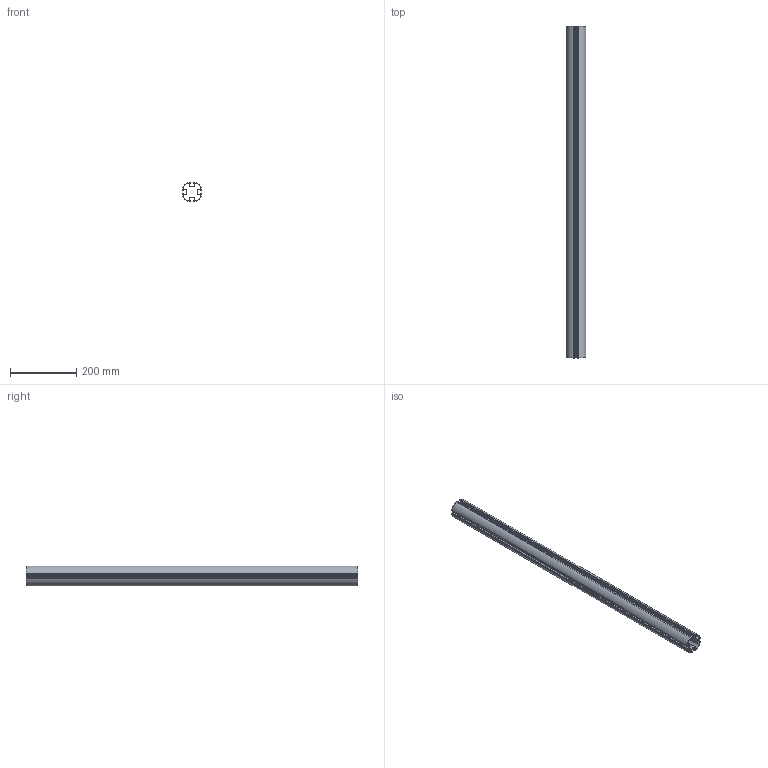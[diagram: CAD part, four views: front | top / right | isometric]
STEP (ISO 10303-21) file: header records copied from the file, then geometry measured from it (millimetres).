
FILE_DESCRIPTION (( 'STEP AP203' ), '1' );
FILE_NAME ('TUA-60-4R.STEP', '2009-04-22T09:33:25', ( 'faber' ), ( '' ), 'SwSTEP 2.0', 'SolidWorks 2008', '' );
FILE_SCHEMA (( 'CONFIG_CONTROL_DESIGN' ));
Length unit declared in the file: millimetre
Products named in the file (1): TUA-60-4R
Bounding box: 58 x 1000 x 58 mm (x, y, z)
Volume: 618359 mm3; surface area: 574648.3 mm2
Topology: 1 solids, 1 shells, 104 faces, 306 edges, 204 vertices
Faces by surface type: plane 62, cylinder 42
Entity records: 3555 total; most frequent: CARTESIAN_POINT 615, ORIENTED_EDGE 612, DIRECTION 600, EDGE_CURVE 306, VECTOR 222, LINE 222, VERTEX_POINT 204, AXIS2_PLACEMENT_3D 189
